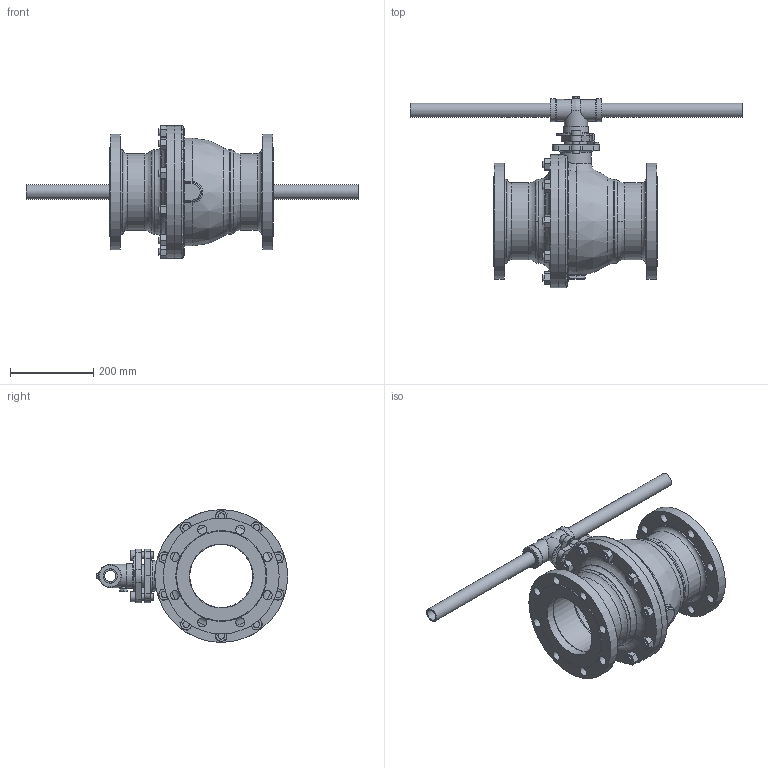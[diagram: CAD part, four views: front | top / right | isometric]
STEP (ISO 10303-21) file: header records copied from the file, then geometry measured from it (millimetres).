
FILE_DESCRIPTION((' '),'2;1');
FILE_NAME('N:\Technical Support\Private\Jomar Valve CAD\Ball Valves\Flange\6.0 FL-CS[SS]-100-150 (600-212[112]).STP.stp','2013-06-28T09:47:58',(' '),(' '),' ','ACIS',' ');
FILE_SCHEMA(('CONFIG_CONTROL_DESIGN'));
Length unit declared in the file: millimetre
Products named in the file (1): N:\Technical Support\Private\Jomar Valve CAD\Ball Valves\Flange\6.0 FL-CS[SS]-100-150 (600-212[112]).STP.stp
Bounding box: 800 x 461 x 320 mm (x, y, z)
Volume: 581262.4 mm3; surface area: 1310991.2 mm2
Topology: 1 solids, 2 shells, 860 faces, 2014 edges, 1256 vertices
Faces by surface type: plane 357, cone 221, cylinder 174, bspline 71, torus 37
Full cylindrical faces by diameter (mm): 1.5 x2, 5 x1, 8 x1, 10 x1, 12 x5, 15.88 x24, 16 x1, 17.3 x2, 22 x16, 24 x2, 27.2 x1, 34 x1, 34.5 x2, 37 x1, 39 x1, 40 x1, 40.5 x1, 40.6 x1, 43.5 x1, 44 x1, 52 x2, 55 x5, 55.6 x1, 56 x1, 60 x1, 73 x1, 152 x5, 155 x2, 157 x2, 185 x4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
Entity records: 32383 total; most frequent: CARTESIAN_POINT 14265, ORIENTED_EDGE 3672, DIRECTION 3592, EDGE_CURVE 1838, AXIS2_PLACEMENT_3D 1497, VERTEX_POINT 1223, EDGE_LOOP 1178, FACE_OUTER_BOUND 860
